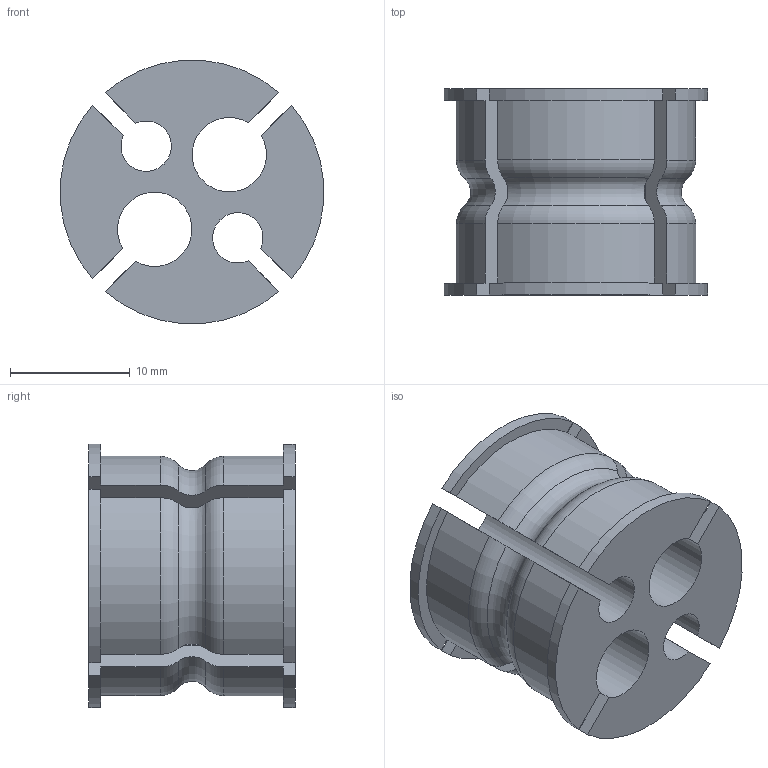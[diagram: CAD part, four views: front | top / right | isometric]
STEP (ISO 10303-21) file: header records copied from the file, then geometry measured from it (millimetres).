
FILE_DESCRIPTION(('Creo Elements/Direct Modeling STEP Export'),'2;1');
FILE_NAME('H21-0001-CL904-00_GCH-TM.stp','2021-09-28T10:13:50',(''),(''),'Creo Elements/Direct Modeling STEP processor for AP214 (Solid Model)','Creo Elements/Direct Modeling 20.3B 05-Dec-2020 (C) Parametric Technology GmbH','');
FILE_SCHEMA(('AUTOMOTIVE_DESIGN { 1 0 10303 214 1 1 1 1 }'));
Length unit declared in the file: millimetre
Products named in the file (2): GCH-TM
Assembly tree (1 placements, depth 2):
  GCH-TM
    GCH-TM
Bounding box: 21.93 x 17.2 x 21.93 mm (x, y, z)
Volume: 3584.2 mm3; surface area: 3036.3 mm2
Topology: 1 solids, 1 shells, 50 faces, 144 edges, 96 vertices
Faces by surface type: cylinder 20, plane 18, torus 12
Entity records: 1723 total; most frequent: CARTESIAN_POINT 570, ORIENTED_EDGE 288, DIRECTION 156, EDGE_CURVE 144, VERTEX_POINT 96, VECTOR 72, LINE 72, EDGE_LOOP 50
